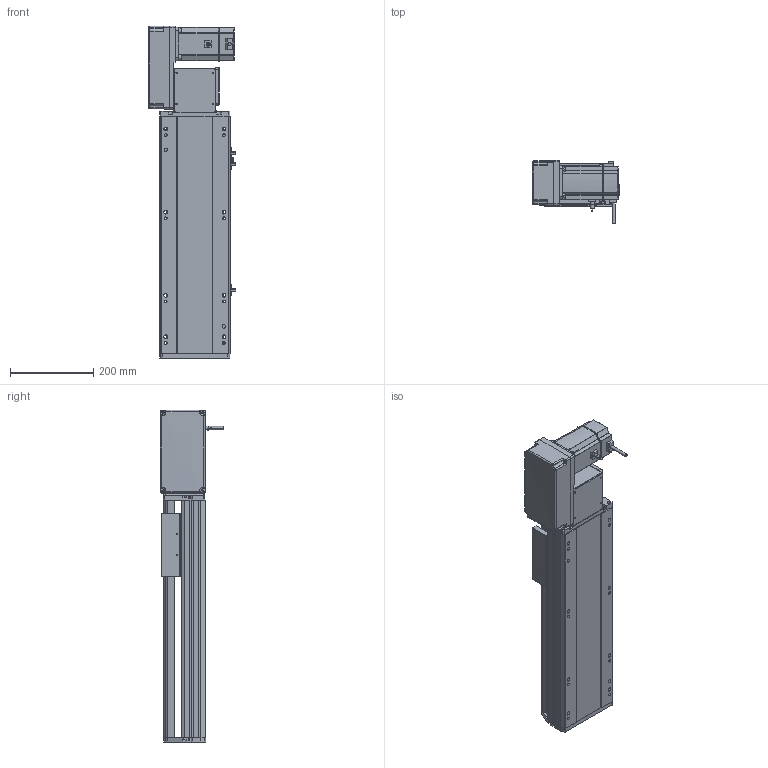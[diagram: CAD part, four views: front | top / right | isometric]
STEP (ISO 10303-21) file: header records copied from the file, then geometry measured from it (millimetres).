
FILE_DESCRIPTION (( 'STEP AP214' ), '1' );
FILE_NAME ('RTB17S-XX-300-L-M75-C4.STEP', '2025-12-12T00:07:53', ( '' ), ( '' ), 'SwSTEP 2.0', 'SolidWorks 2018', '' );
FILE_SCHEMA (( 'AUTOMOTIVE_DESIGN' ));
Length unit declared in the file: millimetre
Products named in the file (15): 750W萇儂^RTB17S-XX-XX-L-M75-C4; RTB22S-GY-005P^RTB17S-L-々湍釱蚾饜-750W_RTB17S-XX-XX-L-M75-C4; RTB22S-GY-017P^RTB17S-L-々湍釱蚾饜-750W_RTB17S-XX-XX-L-M75-C4; RMP17S-L-014-T20-P75--々湍釱^RTB17S-L-々湍釱蚾饜-750W_RTB17S-XX-XX-L-M75-C4; RTB17S-賑釱^RTB17S-XX-XX-L-M75-C4; RTB17S-L-007奻裔^RTB17S-XX-XX-L-M75-C4; RTH13-BL-012覜茼え俋离^RTB17S-賑釱_RTB17S-XX-XX-L-M75-C4; RTB17S-L-004-賑釱^RTB17S-賑釱_RTB17S-XX-XX-L-M75-C4; RTB22S-GY-008-M75--萇儂啣^RTB17S-L-々湍釱蚾饜-750W_RTB17S-XX-XX-L-M75-C4; RTB17S-XX-300-L-M75-C4; RTB22S-GY-018P^RTB17S-L-々湍釱蚾饜-750W_RTB17S-XX-XX-L-M75-C4; EE672^RTB17S-XX-XX-L-M75-C4; RTB17S-L-001-耜醱啣^RTB17S-XX-XX-L-M75-C4; RTB17-R-011菁釱^RTB17S-XX-XX-L-M75-C4; RTB17S-L-々湍釱蚾饜-750W^RTB17S-XX-XX-L-M75-C4
Assembly tree (17 placements, depth 3):
  RTB17S-XX-300-L-M75-C4
    RTB17-R-011菁釱^RTB17S-XX-XX-L-M75-C4
    EE672^RTB17S-XX-XX-L-M75-C4  x3
    RTB17S-L-001-耜醱啣^RTB17S-XX-XX-L-M75-C4
    RTB17S-賑釱^RTB17S-XX-XX-L-M75-C4
      RTB17S-L-004-賑釱^RTB17S-賑釱_RTB17S-XX-XX-L-M75-C4
      RTH13-BL-012覜茼え俋离^RTB17S-賑釱_RTB17S-XX-XX-L-M75-C4
    RTB17S-L-007奻裔^RTB17S-XX-XX-L-M75-C4
    750W萇儂^RTB17S-XX-XX-L-M75-C4
    RTB17S-L-々湍釱蚾饜-750W^RTB17S-XX-XX-L-M75-C4
      RMP17S-L-014-T20-P75--々湍釱^RTB17S-L-々湍釱蚾饜-750W_RTB17S-XX-XX-L-M75-C4
      RTB22S-GY-005P^RTB17S-L-々湍釱蚾饜-750W_RTB17S-XX-XX-L-M75-C4
      RTB22S-GY-017P^RTB17S-L-々湍釱蚾饜-750W_RTB17S-XX-XX-L-M75-C4  x2
      RTB22S-GY-008-M75--萇儂啣^RTB17S-L-々湍釱蚾饜-750W_RTB17S-XX-XX-L-M75-C4
      RTB22S-GY-018P^RTB17S-L-々湍釱蚾饜-750W_RTB17S-XX-XX-L-M75-C4
Bounding box: 210.4 x 152.7 x 799 mm (x, y, z)
Volume: 7822706.8 mm3; surface area: 1211987.9 mm2
Topology: 17 solids, 17 shells, 2041 faces, 5620 edges, 3626 vertices
Faces by surface type: plane 964, cylinder 661, bspline 294, cone 110, sphere 8, torus 4
Entity records: 55798 total; most frequent: CARTESIAN_POINT 16284, ORIENTED_EDGE 8084, DIRECTION 7592, EDGE_CURVE 4042, AXIS2_PLACEMENT_3D 2646, VERTEX_POINT 2630, LINE 2300, VECTOR 2300
